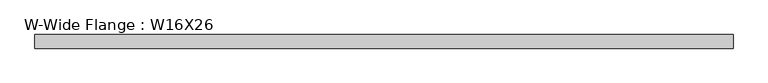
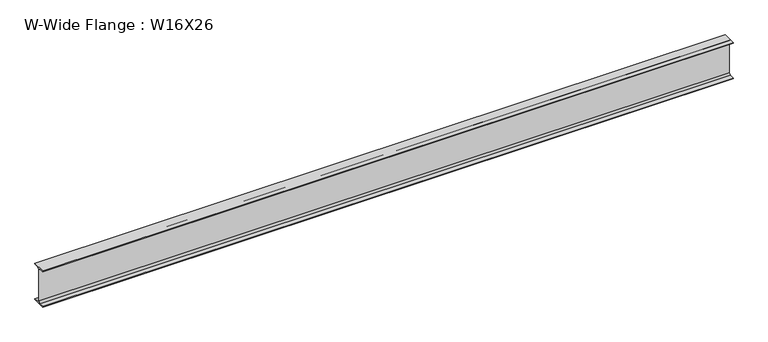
"""IFC4 building model written with IfcOpenShell, lengths in millimetres: beam geometry, W-Wide Flange : W16X26."""

from ifc_helpers import new_model, si_unit, point, frame, frame_2d, origin, place, context, project, spatial, polyline, circle_curve, trimmed, segment, composite_curve, outline, extrude, source, transform, mapped, element, save


def w_wide_flange_w16x26_d4bec6c4(model_context):
    return source(origin(), model_context, "Body", "SweptSolid", [
        extrude(outline(composite_curve([segment(polyline([(69.85, -190.627), (69.85, -199.39), (-69.85, -199.39), (-69.85, -190.627), (-21.3995, -190.627)]), True, "CONTINUOUS"), segment(trimmed(circle_curve(frame_2d((-21.3995, -172.4025)), 18.2245), [point((-21.3995, -190.627))], [point((-3.175, -172.4025))], True, "CARTESIAN"), True, "CONTINUOUS"), segment(polyline([(-3.175, -172.4025), (-3.175, 172.4025)]), True, "CONTINUOUS"), segment(trimmed(circle_curve(frame_2d((-21.3995, 172.4025)), 18.2245), [point((-3.175, 172.4025))], [point((-21.3995, 190.627))], True, "CARTESIAN"), True, "CONTINUOUS"), segment(polyline([(-21.3995, 190.627), (-69.85, 190.627), (-69.85, 199.39), (69.85, 199.39), (69.85, 190.627), (21.3995, 190.627)]), True, "CONTINUOUS"), segment(trimmed(circle_curve(frame_2d((21.3995, 172.4025)), 18.2245), [point((21.3995, 190.627))], [point((3.175, 172.4025))], True, "CARTESIAN"), True, "CONTINUOUS"), segment(polyline([(3.175, 172.4025), (3.175, -172.4025)]), True, "CONTINUOUS"), segment(trimmed(circle_curve(frame_2d((21.3995, -172.4025)), 18.2245), [point((3.175, -172.4025))], [point((21.3995, -190.627))], True, "CARTESIAN"), True, "CONTINUOUS"), segment(polyline([(21.3995, -190.627), (69.85, -190.627)]), True, "CONTINUOUS")], self_intersect=False)), frame((-3587.5463652, 0.0, 0.0), z_axis=(1.0, 0.0, 0.0), x_axis=(0.0, 1.0, 0.0)), (0.0, 0.0, 1.0), 7175.5),
    ])


if __name__ == "__main__":
    model = new_model("IFC4")
    model_context = context("Model", 3, world=origin())
    ifc_project = project(units=[si_unit("LENGTHUNIT", "METRE", prefix="MILLI")], contexts=[model_context])
    site = spatial("IfcSite", under=ifc_project)
    building = spatial("IfcBuilding", under=site)
    placement = place(None, origin())
    w_wide_flange_w16x26_shape = w_wide_flange_w16x26_d4bec6c4(model_context)
    element("IfcBeam", 1, ObjectType="W-Wide Flange : W16X26", at=placement, inside=building, context=model_context, shape_type="MappedRepresentation", body=[
        mapped(w_wide_flange_w16x26_shape, transform((0.0, 0.0, 0.0), x_axis=(1.0, 0.0, 0.0), y_axis=(0.0, 1.0, 0.0), z_axis=(0.0, 0.0, 1.0))),
    ])
    save(model, "model.ifc")
